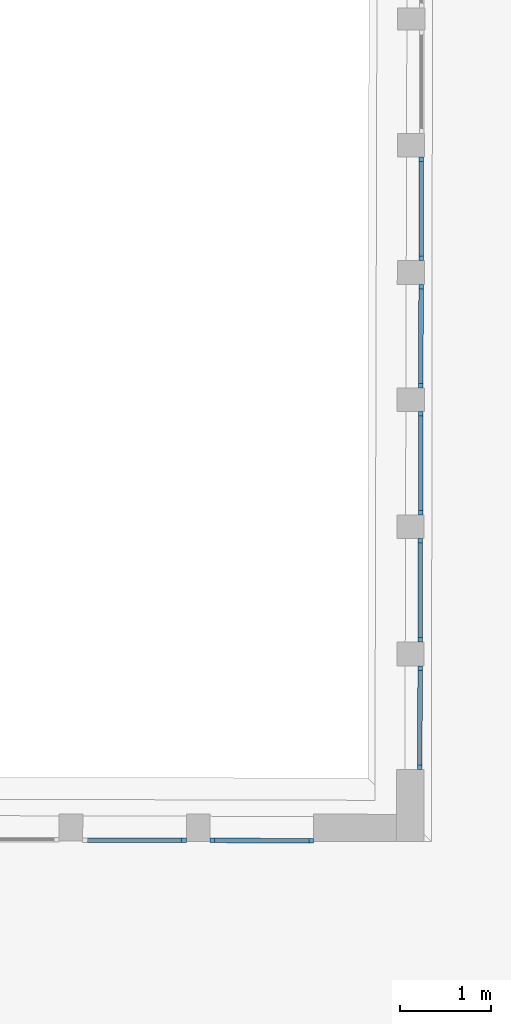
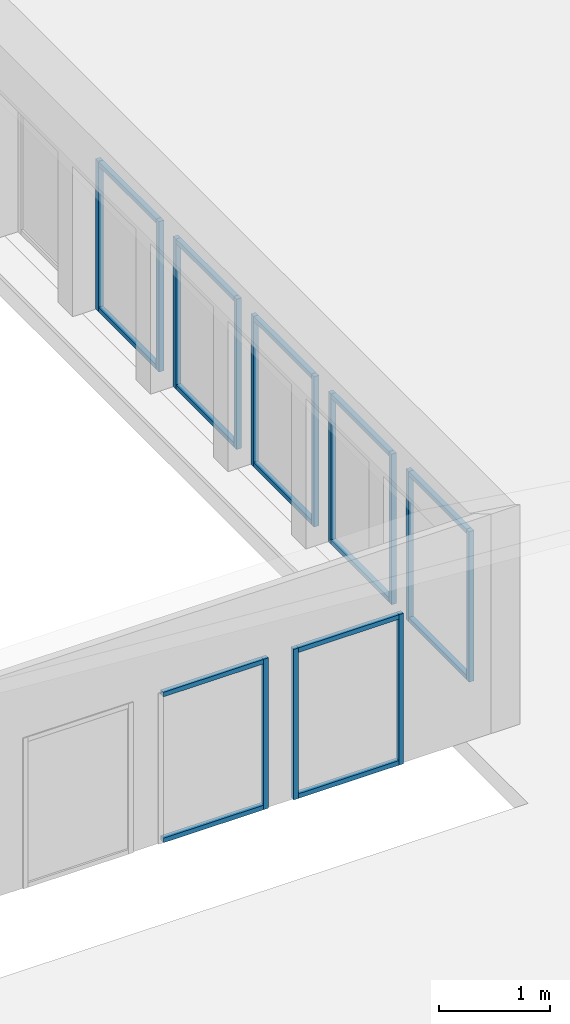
# One storey, part 10 of 26: 27 members, 7 elements without a shape of their own.
"""IFC2X3 building model written with IfcOpenShell, lengths in metres."""

import ifcopenshell
import ifcopenshell.guid

model = None  # the IFC model being written
_history = None  # IfcOwnerHistory: only IFC2X3 demands one
_inside = {}  # id of a spatial element -> (the spatial element, [elements in it])
_under = {}  # id of a project, library or spatial element -> (it, [spatial elements below it])
_declared = {}  # id of a project -> (the project, [libraries it declares])
_typed = {}  # id of a type object -> (the type object, [elements of that type])
_made_of = {}  # id of a material, layer set ... -> (it, [elements and type objects made of it])


def new_model(schema):
    """Start an empty IFC model of exactly this schema.

    Asked for "IFC4X3", IfcOpenShell would pick the latest addendum, in which some entities
    have other attributes; the version numbers below select the first issue.
    IFC2X3 requires an IfcOwnerHistory on every rooted entity: one is made here for all.
    """
    global model, _history
    if schema == "IFC4X3":
        model = ifcopenshell.file(schema_version=(4, 3, 0, 0))
    else:
        model = ifcopenshell.file(schema=schema)
    _inside.clear()
    _under.clear()
    _declared.clear()
    _typed.clear()
    _made_of.clear()
    _history = None
    if model.schema == "IFC2X3":
        org = make("IfcOrganization", Name="unknown")
        user = make(
            "IfcPersonAndOrganization",
            ThePerson=make("IfcPerson", FamilyName="unknown"),
            TheOrganization=org,
        )
        app = make(
            "IfcApplication",
            ApplicationDeveloper=org,
            Version="unknown",
            ApplicationFullName="unknown",
            ApplicationIdentifier="unknown",
        )
        _history = make(
            "IfcOwnerHistory",
            OwningUser=user,
            OwningApplication=app,
            ChangeAction="ADDED",
            CreationDate=0,
        )
    return model


def make(cls, **values):
    """One entity of the class cls with the attributes given. An attribute that is None is left unset."""
    return model.create_entity(
        cls, **{name: value for name, value in values.items() if value is not None}
    )


def entity(cls, *values):
    """Any entity or typed value of the class cls, its attributes in the order of the schema. None: left unset."""
    e = model.create_entity(cls)
    for i, value in enumerate(values):
        if value is not None:
            e[i] = value
    return e


def rooted(cls, **values):
    """An entity with a GlobalId (a new one), such as an element, a storey or a relation."""
    return make(cls, GlobalId=ifcopenshell.guid.new(), OwnerHistory=_history, **values)


def si_unit(unit_type, name, prefix=None):
    """IfcSIUnit, for example si_unit("LENGTHUNIT", "METRE", prefix="MILLI")."""
    return make("IfcSIUnit", UnitType=unit_type, Prefix=prefix, Name=name)


def converted_unit(unit_type, name, factor, base, dimensions=None, offset=None):
    """IfcConversionBasedUnit, such as the inch: factor (a typed value) times the base unit."""
    return make(
        "IfcConversionBasedUnit"
        if offset is None
        else "IfcConversionBasedUnitWithOffset",
        ConversionOffset=offset,
        Dimensions=None
        if dimensions is None
        else entity("IfcDimensionalExponents", *dimensions),
        UnitType=unit_type,
        Name=name,
        ConversionFactor=make(
            "IfcMeasureWithUnit", ValueComponent=factor, UnitComponent=base
        ),
    )


def derived_unit(unit_type, elements):
    """IfcDerivedUnit: a product of units, each with its exponent."""
    return make(
        "IfcDerivedUnit",
        Elements=[
            make("IfcDerivedUnitElement", Unit=unit, Exponent=power)
            for unit, power in elements
        ],
        UnitType=unit_type,
    )


def assignment(units):
    """IfcUnitAssignment: the units of a project."""
    return None if units is None else make("IfcUnitAssignment", Units=units)


def point(xyz):
    """IfcCartesianPoint."""
    return None if xyz is None else make("IfcCartesianPoint", Coordinates=xyz)


def direction(xyz):
    """IfcDirection."""
    return None if xyz is None else make("IfcDirection", DirectionRatios=xyz)


def frame(location, z_axis=None, x_axis=None):
    """IfcAxis2Placement3D, a coordinate frame: its origin and axes. An axis left out is left unset."""
    return make(
        "IfcAxis2Placement3D",
        Location=point(location),
        Axis=direction(z_axis),
        RefDirection=direction(x_axis),
    )


def frame_2d(location, x_axis=None):
    """IfcAxis2Placement2D, a coordinate frame in the plane: its origin and x axis."""
    return make(
        "IfcAxis2Placement2D", Location=point(location), RefDirection=direction(x_axis)
    )


def origin():
    """The frame at (0, 0, 0) with its axes left unset."""
    return frame((0.0, 0.0, 0.0))


def origin_2d_with_axis():
    """The frame at (0, 0) in the plane with the x axis (1, 0) written out."""
    return frame_2d((0.0, 0.0), x_axis=(1.0, 0.0))


def place(relative_to, where):
    """IfcLocalPlacement: puts the frame where relative to a parent placement (None: the world)."""
    return make(
        "IfcLocalPlacement", PlacementRelTo=relative_to, RelativePlacement=where
    )


def context(
    kind, dimensions, precision=None, world=None, true_north=None, identifier=None
):
    """IfcGeometricRepresentationContext, for example the 3D "Model" context."""
    return make(
        "IfcGeometricRepresentationContext",
        ContextIdentifier=identifier,
        ContextType=kind,
        CoordinateSpaceDimension=dimensions,
        Precision=precision,
        WorldCoordinateSystem=world,
        TrueNorth=true_north,
    )


def subcontext(parent, identifier, kind, view, scale=None):
    """IfcGeometricRepresentationSubContext, for example "Body" below "Model"."""
    return make(
        "IfcGeometricRepresentationSubContext",
        ContextIdentifier=identifier,
        ContextType=kind,
        ParentContext=parent,
        TargetScale=scale,
        TargetView=view,
    )


def project(units=None, contexts=None):
    """IfcProject with its units and contexts."""
    return rooted(
        "IfcProject",
        Name="project",
        RepresentationContexts=contexts,
        UnitsInContext=assignment(units),
    )


def spatial(cls, under=None, at=None, **own):
    """A site, building, storey or space (cls), placed at a placement, below another one or the project."""
    s = rooted(cls, ObjectPlacement=at, **own)
    if under is not None:
        _under.setdefault(under.id(), (under, []))[1].append(s)
    return s


def profile(cls, at=None, kind="AREA", **sizes):
    """A parametric profile (cls). Its sizes go by their IFC names, for example OverallWidth=200.0."""
    return make(cls, ProfileType=kind, Position=at, **sizes)


def rectangle(**sizes):
    """IfcRectangleProfileDef."""
    return profile("IfcRectangleProfileDef", **sizes)


def extrude(swept, where, along, depth):
    """IfcExtrudedAreaSolid: the profile swept, set in the frame where, extruded along a direction by depth."""
    return make(
        "IfcExtrudedAreaSolid",
        SweptArea=swept,
        Position=where,
        ExtrudedDirection=direction(along),
        Depth=depth,
    )


def shape(context_of_items, identifier, shape_type, items):
    """IfcShapeRepresentation: the items that make up one representation, for example the "Body"."""
    return make(
        "IfcShapeRepresentation",
        ContextOfItems=context_of_items,
        RepresentationIdentifier=identifier,
        RepresentationType=shape_type,
        Items=items,
    )


def source(mapping_origin, context_of_items, identifier, shape_type, items):
    """IfcRepresentationMap: a shape defined once, which mapped items show again and again."""
    return make(
        "IfcRepresentationMap",
        MappingOrigin=mapping_origin,
        MappedRepresentation=shape(context_of_items, identifier, shape_type, items),
    )


def transform(
    local_origin,
    x_axis=None,
    y_axis=None,
    z_axis=None,
    scale=None,
    scale2=None,
    scale3=None,
    uniform=True,
):
    """IfcCartesianTransformationOperator3D, or its non-uniform kind. x_axis, y_axis, z_axis: its Axis1, 2, 3."""
    if uniform:
        return make(
            "IfcCartesianTransformationOperator3D",
            Axis1=direction(x_axis),
            Axis2=direction(y_axis),
            LocalOrigin=point(local_origin),
            Scale=scale,
            Axis3=direction(z_axis),
        )
    return make(
        "IfcCartesianTransformationOperator3DnonUniform",
        Axis1=direction(x_axis),
        Axis2=direction(y_axis),
        LocalOrigin=point(local_origin),
        Scale=scale,
        Axis3=direction(z_axis),
        Scale2=scale2,
        Scale3=scale3,
    )


def mapped(mapping_source, mapping_target):
    """IfcMappedItem: shows the shape of a source again, moved by a transform."""
    return make(
        "IfcMappedItem", MappingSource=mapping_source, MappingTarget=mapping_target
    )


def material(Name=None, Category=None):
    """IfcMaterial."""
    return make("IfcMaterial", Name=Name, Category=Category)


def made_of(thing, what):
    """Note that an element or type object is made of a material, layer set ...; save() writes the relation."""
    if what is not None:
        _made_of.setdefault(what.id(), (what, []))[1].append(thing)
    return thing


def type_object(cls, material=None, **own):
    """A type object (cls), such as IfcWallType, which elements share."""
    return made_of(rooted(cls, **own), material)


def type_shapes(of_type, sources):
    """Give a type object the sources (RepresentationMaps) that its elements show as mapped items."""
    of_type.RepresentationMaps = sources


def element(
    cls,
    number,
    at=None,
    inside=None,
    cuts=None,
    type_object=None,
    material=None,
    context=None,
    identifier="Body",
    shape_type=None,
    held_by="IfcProductDefinitionShape",
    body=None,
    shapes=None,
    **own,
):
    """One element of the class cls, such as IfcWall. Its Tag is "e" and its number.

    at: its placement. inside: the storey or other place that contains it. cuts: it is an
    opening in that element (IfcRelVoidsElement). A single representation is given by context,
    identifier, shape_type and body (its items); several are given by shapes. held_by: the class
    of the entity that holds the representations. save() writes the other relations.
    """
    e = rooted(cls, Tag="e%d" % number, ObjectPlacement=at, **own)
    if body is not None:
        shapes = [shape(context, identifier, shape_type, body)]
    if shapes is not None:
        e.Representation = make(held_by, Representations=shapes)
    if inside is not None:
        _inside.setdefault(inside.id(), (inside, []))[1].append(e)
    if cuts is not None:
        rooted(
            "IfcRelVoidsElement", RelatingBuildingElement=cuts, RelatedOpeningElement=e
        )
    if type_object is not None:
        _typed.setdefault(type_object.id(), (type_object, []))[1].append(e)
    return made_of(e, material)


def aggregate(whole, parts):
    """IfcRelAggregates: a whole, such as a stair, and the parts it consists of."""
    return rooted("IfcRelAggregates", RelatingObject=whole, RelatedObjects=parts)


def save(model, path):
    """Write the relations noted so far, then the file.

    IfcRelAggregates (storeys below a building ...), IfcRelContainedInSpatialStructure (elements
    in a storey), IfcRelDefinesByType, IfcRelAssociatesMaterial and IfcRelDeclares: one each for
    every whole, place, type object, material and project.
    """
    for whole, parts in _under.values():
        aggregate(whole, parts)
    for where, things in _inside.values():
        rooted(
            "IfcRelContainedInSpatialStructure",
            RelatedElements=things,
            RelatingStructure=where,
        )
    for kind, things in _typed.values():
        rooted("IfcRelDefinesByType", RelatedObjects=things, RelatingType=kind)
    for what, things in _made_of.values():
        rooted("IfcRelAssociatesMaterial", RelatedObjects=things, RelatingMaterial=what)
    for by, libraries in _declared.values():
        rooted("IfcRelDeclares", RelatingContext=by, RelatedDefinitions=libraries)
    model.write(path)


model = new_model("IFC2X3")

# Units and contexts
model_context = context("Model", 3, precision=1e-05, world=origin(), true_north=direction((6.123233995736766e-17, 1.0)))
body_context = subcontext(model_context, "Body", "Model", "MODEL_VIEW")
ifc_project = project(units=[si_unit("LENGTHUNIT", "METRE"), si_unit("AREAUNIT", "SQUARE_METRE"), converted_unit("PLANEANGLEUNIT", "DEGREE", entity("IfcPlaneAngleMeasure", 0.017453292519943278), si_unit("PLANEANGLEUNIT", "RADIAN"), dimensions=[0, 0, 0, 0, 0, 0, 0]), derived_unit("THERMALTRANSMITTANCEUNIT", [(si_unit("MASSUNIT", "GRAM", prefix="KILO"), 1), (si_unit("THERMODYNAMICTEMPERATUREUNIT", "KELVIN"), -1), (si_unit("TIMEUNIT", "SECOND"), -3)])], contexts=[model_context])

# Site, building, storey
site_placement = place(None, frame((1253.6752467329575, 2072.143113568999, 91.49999999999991), z_axis=(0.0, 0.0, 1.0), x_axis=(0.7237211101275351, 0.6900925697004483, 0.0)))
site = spatial("IfcSite", under=ifc_project, at=site_placement, Name="Surface", CompositionType="ELEMENT")
building_placement = place(site_placement, origin())
building = spatial("IfcBuilding", under=site, at=building_placement, CompositionType="ELEMENT")
storey_placement = place(building_placement, frame((0.0, 0.0, 7.0)))
storey = spatial("IfcBuildingStorey", under=building, at=storey_placement, Name="2-R+2", CompositionType="ELEMENT", Elevation=6.999999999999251)

# Curtain wall, member
curtain_wall_type = type_object("IfcCurtainWallType", Name="Mur-rideau:Menuiserie Ext 1F+1OB VERTIC", PredefinedType="NOTDEFINED")
curtain_wall_1_placement = place(storey_placement, frame((0.0, 0.0, -7.0)))
curtain_wall_1 = element("IfcCurtainWall", 1, at=curtain_wall_1_placement, inside=storey, type_object=curtain_wall_type, Name="Mur-rideau:Menuiserie Ext 1F+1OB VERTIC", ObjectType="Mur-rideau:Menuiserie Ext 1F+1OB VERTIC")
ifc_material = material(Name="OMD_Aluminium Men Ext")
member_type_1 = type_object("IfcMemberType", Name="Meneau rectangulaire:50x50", PredefinedType="MULLION", material=ifc_material)
shared_shape_1 = source(origin(), body_context, "Body", "SweptSolid", [
    extrude(rectangle(XDim=0.05, YDim=0.049999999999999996, at=origin_2d_with_axis()), frame((-0.025, 0.0, -1.039999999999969), z_axis=(0.0, 0.0, 1.0), x_axis=(-1.0, 0.0, 0.0)), (0.0, 0.0, 1.0), 1.0399999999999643),
])
type_shapes(member_type_1, [shared_shape_1])
member_1_placement = place(curtain_wall_1_placement, frame((180.49774447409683, -8.552010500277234, 9.55), z_axis=(0.6909838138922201, 0.7228702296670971, 0.0), x_axis=(0.0, 0.0, 1.0)))
member_1 = element("IfcMember", 2, at=member_1_placement, type_object=member_type_1, material=ifc_material, Name="Meneau rectangulaire:50x50", ObjectType="Meneau rectangulaire:50x50", context=body_context, shape_type="MappedRepresentation", body=[
    mapped(shared_shape_1, transform((0.0, 0.0, 0.0), scale=1.0)),
])

curtain_wall_2_placement = place(storey_placement, frame((0.0, 0.0, -7.0)))
curtain_wall_2 = element("IfcCurtainWall", 3, at=curtain_wall_2_placement, inside=storey, type_object=curtain_wall_type, Name="Mur-rideau:Menuiserie Ext 1F+1OB VERTIC", ObjectType="Mur-rideau:Menuiserie Ext 1F+1OB VERTIC")
member_2_placement = place(curtain_wall_2_placement, frame((179.52897898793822, -9.562700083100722, 9.55), z_axis=(0.6909838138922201, 0.7228702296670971, 0.0), x_axis=(0.0, 0.0, 1.0)))
member_2 = element("IfcMember", 4, at=member_2_placement, type_object=member_type_1, material=ifc_material, Name="Meneau rectangulaire:50x50", ObjectType="Meneau rectangulaire:50x50", context=body_context, shape_type="MappedRepresentation", body=[
    mapped(shared_shape_1, transform((0.0, 0.0, 0.0), scale=1.0)),
])

curtain_wall_3_placement = place(storey_placement, frame((0.0, 0.0, -7.0)))
curtain_wall_3 = element("IfcCurtainWall", 5, at=curtain_wall_3_placement, inside=storey, type_object=curtain_wall_type, Name="Mur-rideau:Menuiserie Ext 1F+1OB VERTIC", ObjectType="Mur-rideau:Menuiserie Ext 1F+1OB VERTIC")
member_3_placement = place(curtain_wall_3_placement, frame((178.56021350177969, -10.573389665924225, 9.55), z_axis=(0.6909838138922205, 0.7228702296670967, 0.0), x_axis=(0.0, 0.0, 1.0)))
member_3 = element("IfcMember", 6, at=member_3_placement, type_object=member_type_1, material=ifc_material, Name="Meneau rectangulaire:50x50", ObjectType="Meneau rectangulaire:50x50", context=body_context, shape_type="MappedRepresentation", body=[
    mapped(shared_shape_1, transform((0.0, 0.0, 0.0), scale=1.0)),
])

curtain_wall_4_placement = place(storey_placement, frame((0.0, 0.0, -7.0)))
curtain_wall_4 = element("IfcCurtainWall", 7, at=curtain_wall_4_placement, inside=storey, type_object=curtain_wall_type, Name="Mur-rideau:Menuiserie Ext 1F+1OB VERTIC", ObjectType="Mur-rideau:Menuiserie Ext 1F+1OB VERTIC")
member_4_placement = place(curtain_wall_4_placement, frame((177.59144801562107, -11.584079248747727, 9.55), z_axis=(0.6909838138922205, 0.7228702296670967, 0.0), x_axis=(0.0, 0.0, 1.0)))
member_4 = element("IfcMember", 8, at=member_4_placement, type_object=member_type_1, material=ifc_material, Name="Meneau rectangulaire:50x50", ObjectType="Meneau rectangulaire:50x50", context=body_context, shape_type="MappedRepresentation", body=[
    mapped(shared_shape_1, transform((0.0, 0.0, 0.0), scale=1.0)),
])

curtain_wall_5_placement = place(storey_placement, frame((0.0, 0.0, -7.0)))
curtain_wall_5 = element("IfcCurtainWall", 9, at=curtain_wall_5_placement, inside=storey, type_object=curtain_wall_type, Name="Mur-rideau:Menuiserie Ext 1F+1OB VERTIC", ObjectType="Mur-rideau:Menuiserie Ext 1F+1OB VERTIC")
member_5_placement = place(curtain_wall_5_placement, frame((176.6226825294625, -12.594768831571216, 9.55), z_axis=(0.6909838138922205, 0.7228702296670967, 0.0), x_axis=(0.0, 0.0, 1.0)))
member_5 = element("IfcMember", 10, at=member_5_placement, type_object=member_type_1, material=ifc_material, Name="Meneau rectangulaire:50x50", ObjectType="Meneau rectangulaire:50x50", context=body_context, shape_type="MappedRepresentation", body=[
    mapped(shared_shape_1, transform((0.0, 0.0, 0.0), scale=1.0)),
])

curtain_wall_6_placement = place(storey_placement, frame((0.0, 0.0, -7.0)))
curtain_wall_6 = element("IfcCurtainWall", 11, at=curtain_wall_6_placement, inside=storey, type_object=curtain_wall_type, Name="Mur-rideau:Menuiserie Ext 1F+1OB VERTIC", ObjectType="Mur-rideau:Menuiserie Ext 1F+1OB VERTIC")
member_6_placement = place(curtain_wall_6_placement, frame((173.43350810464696, -12.137905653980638, 9.55), z_axis=(0.7228702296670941, -0.6909838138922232, 0.0), x_axis=(0.0, 0.0, 1.0)))
member_6 = element("IfcMember", 12, at=member_6_placement, type_object=member_type_1, material=ifc_material, Name="Meneau rectangulaire:50x50", ObjectType="Meneau rectangulaire:50x50", context=body_context, shape_type="MappedRepresentation", body=[
    mapped(shared_shape_1, transform((0.0, 0.0, 0.0), scale=1.0)),
])

curtain_wall_7_placement = place(storey_placement, frame((0.0, 0.0, -7.0)))
curtain_wall_7 = element("IfcCurtainWall", 13, at=curtain_wall_7_placement, inside=storey, type_object=curtain_wall_type, Name="Mur-rideau:Menuiserie Ext 1F+1OB VERTIC", ObjectType="Mur-rideau:Menuiserie Ext 1F+1OB VERTIC")
member_7_placement = place(curtain_wall_7_placement, frame((174.44419768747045, -13.106671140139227, 9.55), z_axis=(0.7228702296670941, -0.6909838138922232, 0.0), x_axis=(0.0, 0.0, 1.0)))
member_7 = element("IfcMember", 14, at=member_7_placement, type_object=member_type_1, material=ifc_material, Name="Meneau rectangulaire:50x50", ObjectType="Meneau rectangulaire:50x50", context=body_context, shape_type="MappedRepresentation", body=[
    mapped(shared_shape_1, transform((0.0, 0.0, 0.0), scale=1.0)),
])

# Member
member_type_2 = type_object("IfcMemberType", Name="Meneau rectangulaire:50x50", PredefinedType="MULLION", material=ifc_material)
shared_shape_2 = source(origin(), body_context, "Body", "SweptSolid", [
    extrude(rectangle(XDim=0.05, YDim=0.05, at=origin_2d_with_axis()), frame((-0.025, 0.0, -1.0399999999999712), z_axis=(0.0, 0.0, 1.0), x_axis=(-1.0, 0.0, 0.0)), (0.0, 0.0, 1.0), 1.0399999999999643),
])
type_shapes(member_type_2, [shared_shape_2])
member_8_placement = place(curtain_wall_1_placement, frame((179.77912130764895, -9.303795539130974, 7.9), z_axis=(-0.6909838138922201, -0.7228702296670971, 0.0), x_axis=(0.0, 0.0, -1.0)))
member_8 = element("IfcMember", 15, at=member_8_placement, type_object=member_type_2, material=ifc_material, Name="Meneau rectangulaire:50x50", ObjectType="Meneau rectangulaire:50x50", context=body_context, shape_type="MappedRepresentation", body=[
    mapped(shared_shape_2, transform((0.0, 0.0, 0.0), scale=1.0)),
])

member_9_placement = place(curtain_wall_2_placement, frame((178.81035582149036, -10.314485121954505, 7.9), z_axis=(-0.6909838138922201, -0.7228702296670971, 0.0), x_axis=(0.0, 0.0, -1.0)))
member_9 = element("IfcMember", 16, at=member_9_placement, type_object=member_type_2, material=ifc_material, Name="Meneau rectangulaire:50x50", ObjectType="Meneau rectangulaire:50x50", context=body_context, shape_type="MappedRepresentation", body=[
    mapped(shared_shape_2, transform((0.0, 0.0, 0.0), scale=1.0)),
])

member_10_placement = place(curtain_wall_3_placement, frame((177.8415903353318, -11.325174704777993, 7.9), z_axis=(-0.6909838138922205, -0.7228702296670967, 0.0), x_axis=(0.0, 0.0, -1.0)))
member_10 = element("IfcMember", 17, at=member_10_placement, type_object=member_type_2, material=ifc_material, Name="Meneau rectangulaire:50x50", ObjectType="Meneau rectangulaire:50x50", context=body_context, shape_type="MappedRepresentation", body=[
    mapped(shared_shape_2, transform((0.0, 0.0, 0.0), scale=1.0)),
])

member_11_placement = place(curtain_wall_4_placement, frame((176.8728248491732, -12.335864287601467, 7.9), z_axis=(-0.6909838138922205, -0.7228702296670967, 0.0), x_axis=(0.0, 0.0, -1.0)))
member_11 = element("IfcMember", 18, at=member_11_placement, type_object=member_type_2, material=ifc_material, Name="Meneau rectangulaire:50x50", ObjectType="Meneau rectangulaire:50x50", context=body_context, shape_type="MappedRepresentation", body=[
    mapped(shared_shape_2, transform((0.0, 0.0, 0.0), scale=1.0)),
])

member_12_placement = place(curtain_wall_5_placement, frame((175.90405936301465, -13.346553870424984, 7.9), z_axis=(-0.6909838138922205, -0.7228702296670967, 0.0), x_axis=(0.0, 0.0, -1.0)))
member_12 = element("IfcMember", 19, at=member_12_placement, type_object=member_type_2, material=ifc_material, Name="Meneau rectangulaire:50x50", ObjectType="Meneau rectangulaire:50x50", context=body_context, shape_type="MappedRepresentation", body=[
    mapped(shared_shape_2, transform((0.0, 0.0, 0.0), scale=1.0)),
])

member_13_placement = place(curtain_wall_6_placement, frame((172.6817230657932, -11.419282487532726, 7.9), z_axis=(-0.7228702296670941, 0.6909838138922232, 0.0), x_axis=(0.0, 0.0, -1.0)))
member_13 = element("IfcMember", 20, at=member_13_placement, type_object=member_type_2, material=ifc_material, Name="Meneau rectangulaire:50x50", ObjectType="Meneau rectangulaire:50x50", context=body_context, shape_type="MappedRepresentation", body=[
    mapped(shared_shape_2, transform((0.0, 0.0, 0.0), scale=1.0)),
])

member_14_placement = place(curtain_wall_7_placement, frame((173.69241264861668, -12.388047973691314, 7.9), z_axis=(-0.7228702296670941, 0.6909838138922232, 0.0), x_axis=(0.0, 0.0, -1.0)))
member_14 = element("IfcMember", 21, at=member_14_placement, type_object=member_type_2, material=ifc_material, Name="Meneau rectangulaire:50x50", ObjectType="Meneau rectangulaire:50x50", context=body_context, shape_type="MappedRepresentation", body=[
    mapped(shared_shape_2, transform((0.0, 0.0, 0.0), scale=1.0)),
])

member_type_3 = type_object("IfcMemberType", Name="Meneau rectangulaire:50x50", PredefinedType="MULLION", material=ifc_material)
shared_shape_3 = source(origin(), body_context, "Body", "SweptSolid", [
    extrude(rectangle(XDim=0.05, YDim=0.05, at=origin_2d_with_axis()), frame((-0.025, 0.0, -1.6499999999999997), z_axis=(0.0, 0.0, 1.0), x_axis=(-1.0, 0.0, 0.0)), (0.0, 0.0, 1.0), 1.6499999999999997),
])
type_shapes(member_type_3, [shared_shape_3])
member_15_placement = place(curtain_wall_1_placement, frame((180.53229366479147, -8.515866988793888, 7.9), z_axis=(0.0, 0.0, -1.0), x_axis=(0.6909838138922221, 0.7228702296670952, 0.0)))
member_15 = element("IfcMember", 22, at=member_15_placement, type_object=member_type_3, material=ifc_material, Name="Meneau rectangulaire:50x50", ObjectType="Meneau rectangulaire:50x50", context=body_context, shape_type="MappedRepresentation", body=[
    mapped(shared_shape_3, transform((0.0, 0.0, 0.0), scale=1.0)),
])

member_16_placement = place(curtain_wall_2_placement, frame((179.56352817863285, -9.526556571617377, 7.9), z_axis=(0.0, 0.0, -1.0), x_axis=(0.6909838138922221, 0.7228702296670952, 0.0)))
member_16 = element("IfcMember", 23, at=member_16_placement, type_object=member_type_3, material=ifc_material, Name="Meneau rectangulaire:50x50", ObjectType="Meneau rectangulaire:50x50", context=body_context, shape_type="MappedRepresentation", body=[
    mapped(shared_shape_3, transform((0.0, 0.0, 0.0), scale=1.0)),
])

member_17_placement = place(curtain_wall_3_placement, frame((178.59476269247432, -10.537246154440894, 7.9), z_axis=(0.0, 0.0, -1.0), x_axis=(0.6909838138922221, 0.7228702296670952, 0.0)))
member_17 = element("IfcMember", 24, at=member_17_placement, type_object=member_type_3, material=ifc_material, Name="Meneau rectangulaire:50x50", ObjectType="Meneau rectangulaire:50x50", context=body_context, shape_type="MappedRepresentation", body=[
    mapped(shared_shape_3, transform((0.0, 0.0, 0.0), scale=1.0)),
])

member_18_placement = place(curtain_wall_4_placement, frame((177.6259972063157, -11.547935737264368, 7.9), z_axis=(0.0, 0.0, -1.0), x_axis=(0.6909838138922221, 0.7228702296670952, 0.0)))
member_18 = element("IfcMember", 25, at=member_18_placement, type_object=member_type_3, material=ifc_material, Name="Meneau rectangulaire:50x50", ObjectType="Meneau rectangulaire:50x50", context=body_context, shape_type="MappedRepresentation", body=[
    mapped(shared_shape_3, transform((0.0, 0.0, 0.0), scale=1.0)),
])

member_19_placement = place(curtain_wall_5_placement, frame((176.6572317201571, -12.558625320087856, 7.9), z_axis=(0.0, 0.0, -1.0), x_axis=(0.6909838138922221, 0.7228702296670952, 0.0)))
member_19 = element("IfcMember", 26, at=member_19_placement, type_object=member_type_3, material=ifc_material, Name="Meneau rectangulaire:50x50", ObjectType="Meneau rectangulaire:50x50", context=body_context, shape_type="MappedRepresentation", body=[
    mapped(shared_shape_3, transform((0.0, 0.0, 0.0), scale=1.0)),
])

member_20_placement = place(curtain_wall_6_placement, frame((173.4696516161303, -12.172454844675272, 7.9), z_axis=(0.0, 0.0, -1.0), x_axis=(0.7228702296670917, -0.6909838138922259, 0.0)))
member_20 = element("IfcMember", 27, at=member_20_placement, type_object=member_type_3, material=ifc_material, Name="Meneau rectangulaire:50x50", ObjectType="Meneau rectangulaire:50x50", context=body_context, shape_type="MappedRepresentation", body=[
    mapped(shared_shape_3, transform((0.0, 0.0, 0.0), scale=1.0)),
])

aggregate(curtain_wall_6, [member_6, member_13, member_20])

member_21_placement = place(curtain_wall_7_placement, frame((174.48034119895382, -13.141220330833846, 7.9), z_axis=(0.0, 0.0, -1.0), x_axis=(0.7228702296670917, -0.6909838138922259, 0.0)))
member_21 = element("IfcMember", 28, at=member_21_placement, type_object=member_type_3, material=ifc_material, Name="Meneau rectangulaire:50x50", ObjectType="Meneau rectangulaire:50x50", context=body_context, shape_type="MappedRepresentation", body=[
    mapped(shared_shape_3, transform((0.0, 0.0, 0.0), scale=1.0)),
])

member_type_4 = type_object("IfcMemberType", Name="Meneau rectangulaire:50x50", PredefinedType="MULLION", material=ifc_material)
shared_shape_4 = source(origin(), body_context, "Body", "SweptSolid", [
    extrude(rectangle(XDim=0.05, YDim=0.05000000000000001, at=origin_2d_with_axis()), frame((-0.025, 0.0, -1.6499999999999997), z_axis=(0.0, 0.0, 1.0), x_axis=(-1.0, 0.0, 0.0)), (0.0, 0.0, 1.0), 1.6499999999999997),
])
type_shapes(member_type_4, [shared_shape_4])
member_22_placement = place(curtain_wall_1_placement, frame((179.74457211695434, -9.339939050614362, 9.55), z_axis=(0.0, 0.0, 1.0), x_axis=(-0.6909838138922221, -0.7228702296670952, 0.0)))
member_22 = element("IfcMember", 29, at=member_22_placement, type_object=member_type_4, material=ifc_material, Name="Meneau rectangulaire:50x50", ObjectType="Meneau rectangulaire:50x50", context=body_context, shape_type="MappedRepresentation", body=[
    mapped(shared_shape_4, transform((0.0, 0.0, 0.0), scale=1.0)),
])

aggregate(curtain_wall_1, [member_1, member_8, member_15, member_22])

member_23_placement = place(curtain_wall_2_placement, frame((178.77580663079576, -10.350628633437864, 9.55), z_axis=(0.0, 0.0, 1.0), x_axis=(-0.6909838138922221, -0.7228702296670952, 0.0)))
member_23 = element("IfcMember", 30, at=member_23_placement, type_object=member_type_4, material=ifc_material, Name="Meneau rectangulaire:50x50", ObjectType="Meneau rectangulaire:50x50", context=body_context, shape_type="MappedRepresentation", body=[
    mapped(shared_shape_4, transform((0.0, 0.0, 0.0), scale=1.0)),
])

aggregate(curtain_wall_2, [member_2, member_9, member_16, member_23])

member_24_placement = place(curtain_wall_3_placement, frame((177.8070411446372, -11.361318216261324, 9.55), z_axis=(0.0, 0.0, 1.0), x_axis=(-0.6909838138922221, -0.7228702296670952, 0.0)))
member_24 = element("IfcMember", 31, at=member_24_placement, type_object=member_type_4, material=ifc_material, Name="Meneau rectangulaire:50x50", ObjectType="Meneau rectangulaire:50x50", context=body_context, shape_type="MappedRepresentation", body=[
    mapped(shared_shape_4, transform((0.0, 0.0, 0.0), scale=1.0)),
])

aggregate(curtain_wall_3, [member_3, member_10, member_17, member_24])

member_25_placement = place(curtain_wall_4_placement, frame((176.83827565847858, -12.372007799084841, 9.55), z_axis=(0.0, 0.0, 1.0), x_axis=(-0.6909838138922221, -0.7228702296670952, 0.0)))
member_25 = element("IfcMember", 32, at=member_25_placement, type_object=member_type_4, material=ifc_material, Name="Meneau rectangulaire:50x50", ObjectType="Meneau rectangulaire:50x50", context=body_context, shape_type="MappedRepresentation", body=[
    mapped(shared_shape_4, transform((0.0, 0.0, 0.0), scale=1.0)),
])

aggregate(curtain_wall_4, [member_4, member_11, member_18, member_25])

member_26_placement = place(curtain_wall_5_placement, frame((175.86951017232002, -13.38269738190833, 9.55), z_axis=(0.0, 0.0, 1.0), x_axis=(-0.6909838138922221, -0.7228702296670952, 0.0)))
member_26 = element("IfcMember", 33, at=member_26_placement, type_object=member_type_4, material=ifc_material, Name="Meneau rectangulaire:50x50", ObjectType="Meneau rectangulaire:50x50", context=body_context, shape_type="MappedRepresentation", body=[
    mapped(shared_shape_4, transform((0.0, 0.0, 0.0), scale=1.0)),
])

aggregate(curtain_wall_5, [member_5, member_12, member_19, member_26])

member_27_placement = place(curtain_wall_7_placement, frame((173.65626913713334, -12.353498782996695, 9.55), z_axis=(0.0, 0.0, 1.0), x_axis=(-0.7228702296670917, 0.6909838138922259, 0.0)))
member_27 = element("IfcMember", 34, at=member_27_placement, type_object=member_type_4, material=ifc_material, Name="Meneau rectangulaire:50x50", ObjectType="Meneau rectangulaire:50x50", context=body_context, shape_type="MappedRepresentation", body=[
    mapped(shared_shape_4, transform((0.0, 0.0, 0.0), scale=1.0)),
])

aggregate(curtain_wall_7, [member_7, member_14, member_21, member_27])

save(model, "model.ifc")
